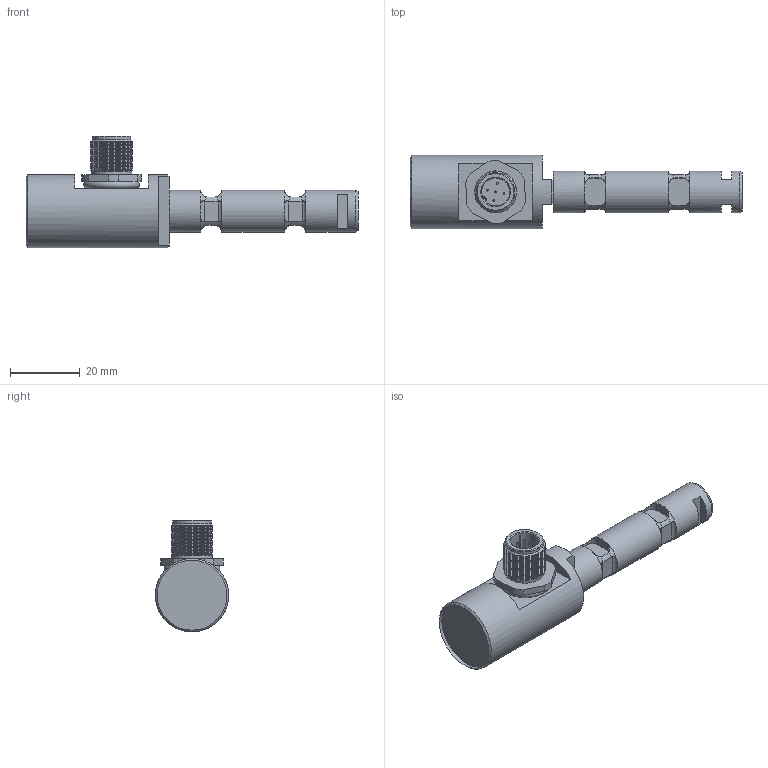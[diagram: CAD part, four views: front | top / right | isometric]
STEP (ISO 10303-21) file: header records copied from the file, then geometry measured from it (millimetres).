
FILE_DESCRIPTION(/* description */ ('Alibre Inc.'),/* implementation_level */ '2;1');
FILE_NAME(/* name */ 'export-D1740CAC-A455-4D5F-B789-FB8DF5657925',/* time_stamp */ '2024-02-23T14:37:43+01:00',/* author */ (''),/* organization */ (''),/* preprocessor_version */ 'ST-DEVELOPER v17',/* originating_system */ 'Alibre',/* authorisation */ '');
FILE_SCHEMA (('CONFIG_CONTROL_DESIGN'));
Length unit declared in the file: centimetre
Bounding box: 95 x 21 x 32 mm (x, y, z)
Surface area: 159571.1 mm2
Topology: 7 solids, 8 shells, 271 faces, 602 edges, 356 vertices
Faces by surface type: plane 90, cylinder 90, cone 73, torus 18
Full cylindrical faces by diameter (mm): 0.5 x10, 8 x2, 10 x1, 11 x2, 11.5 x1, 12 x24, 13 x2, 14.5 x1, 20 x1, 21 x1
Entity records: 6995 total; most frequent: CARTESIAN_POINT 1963, ORIENTED_EDGE 992, DIRECTION 786, EDGE_CURVE 490, EDGE_LOOP 389, FACE_BOUND 389, AXIS2_PLACEMENT_3D 362, VERTEX_POINT 341
